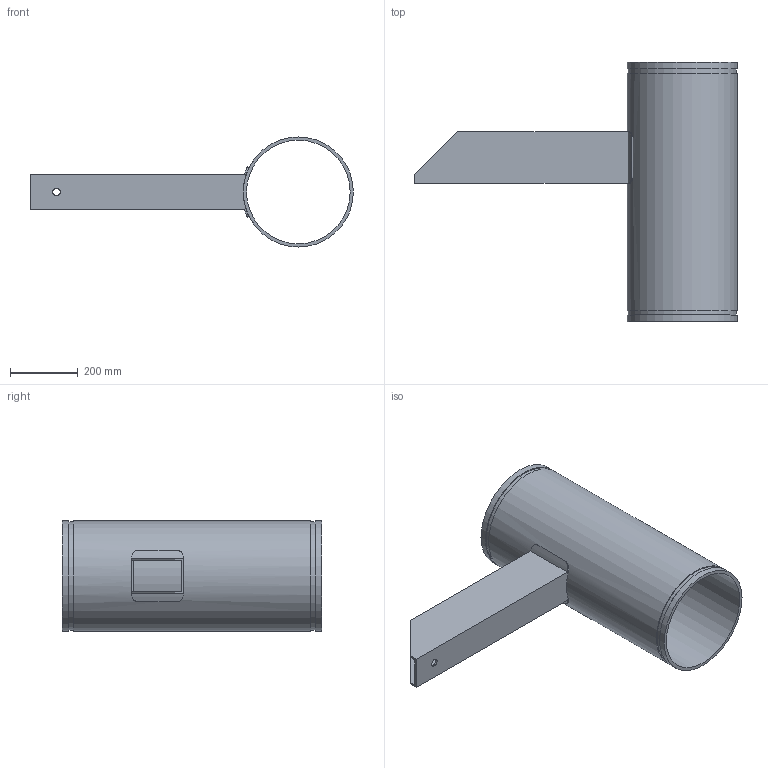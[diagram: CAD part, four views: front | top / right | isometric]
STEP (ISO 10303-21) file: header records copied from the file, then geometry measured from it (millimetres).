
FILE_DESCRIPTION(/* description */ ('VIC SS FLOOR MOUNTED RISER ANCHOR No A40S'),/* implementation_level */ '2;1');
FILE_NAME(/* name */ 'C:\Files for Export\A40 & A40S-STEP-SWX\STEP\Victaulic_SS-OGS_Riser Anchor_No A40S (OGS)\Victaulic_SS-OGS_Riser Anchor_No A40S (OGS)_12 (300).stp',/* time_stamp */ '2024-06-07T07:37:13+02:00',/* author */ ('kkamble'),/* organization */ ('Victaulic'),/* preprocessor_version */ 'ST-DEVELOPER v18.1',/* originating_system */ 'Autodesk Inventor 2020',/* authorisation */ '');
FILE_SCHEMA (('AUTOMOTIVE_DESIGN { 1 0 10303 214 3 1 1 }'));
Length unit declared in the file: inch
Products named in the file (1): A40S-12.0
Bounding box: 949.33 x 762 x 323.85 mm (x, y, z)
Volume: 8618904.1 mm3; surface area: 2094255 mm2
Topology: 1 solids, 1 shells, 34 faces, 94 edges, 66 vertices
Faces by surface type: plane 20, cylinder 14
Full cylindrical faces by diameter (mm): 22.225 x1, 304.8 x1, 318.287 x2, 323.85 x3
Entity records: 1311 total; most frequent: CARTESIAN_POINT 323, DIRECTION 192, ORIENTED_EDGE 188, EDGE_CURVE 94, AXIS2_PLACEMENT_3D 71, VERTEX_POINT 66, LINE 50, VECTOR 50
